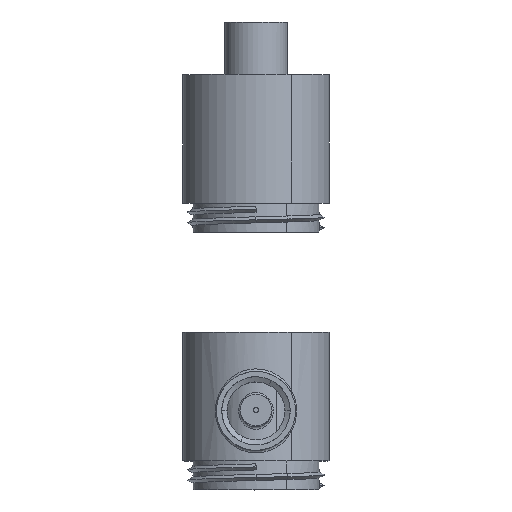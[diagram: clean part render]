
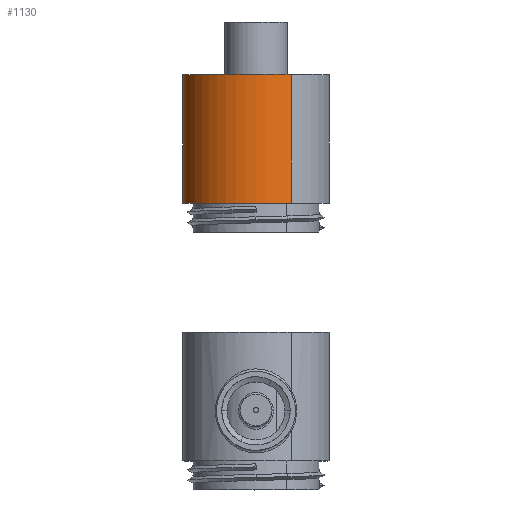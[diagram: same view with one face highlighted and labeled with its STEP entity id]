
A CAD part, top view. The second image highlights one B-rep face of the part: STEP entity #1130.
In plain terms, the highlighted cylindrical face has radius 14 mm (diameter 28 mm), a partial arc.
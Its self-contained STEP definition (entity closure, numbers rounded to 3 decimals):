
#568=CYLINDRICAL_SURFACE('',#11370,14.);
#1130=ADVANCED_FACE('',(#1865),#568,.T.);
#1865=FACE_OUTER_BOUND('',#2558,.T.);
#2558=EDGE_LOOP('',(#5853,#5854,#5855,#5856));
#5853=ORIENTED_EDGE('',*,*,#9050,.F.);
#5854=ORIENTED_EDGE('',*,*,#9055,.T.);
#5855=ORIENTED_EDGE('',*,*,#9056,.T.);
#5856=ORIENTED_EDGE('',*,*,#9053,.T.);
#7326=VERTEX_POINT('',#30887);
#7327=VERTEX_POINT('',#30888);
#7330=VERTEX_POINT('',#30927);
#7331=VERTEX_POINT('',#30938);
#9050=EDGE_CURVE('',#7327,#7326,#10847,.T.);
#9053=EDGE_CURVE('',#7330,#7326,#10850,.T.);
#9055=EDGE_CURVE('',#7327,#7331,#10852,.T.);
#9056=EDGE_CURVE('',#7331,#7330,#10853,.T.);
#10847=B_SPLINE_CURVE_WITH_KNOTS('',3,(#30889,#30890,#30891,#30892,#30893,
#30894,#30895,#30896,#30897,#30898),.UNSPECIFIED.,.F.,.F.,(4,2,2,2,4),(0.,
0.25,0.5,0.75,1.),.UNSPECIFIED.);
#10850=B_SPLINE_CURVE_WITH_KNOTS('',3,(#30923,#30924,#30925,#30926),
 .UNSPECIFIED.,.F.,.F.,(4,4),(0.,1.),.UNSPECIFIED.);
#10852=B_SPLINE_CURVE_WITH_KNOTS('',3,(#30939,#30940,#30941,#30942),
 .UNSPECIFIED.,.F.,.F.,(4,4),(0.,1.),.UNSPECIFIED.);
#10853=B_SPLINE_CURVE_WITH_KNOTS('',3,(#30944,#30945,#30946,#30947,#30948,
#30949,#30950,#30951,#30952,#30953),.UNSPECIFIED.,.F.,.F.,(4,2,2,2,4),(0.,
0.25,0.5,0.75,1.),.UNSPECIFIED.);
#11370=AXIS2_PLACEMENT_3D('',#30954,#12065,#12066);
#12065=DIRECTION('',(0.,1.,0.));
#12066=DIRECTION('',(-0.479,0.,-0.878));
#30887=CARTESIAN_POINT('',(6.712,30.,12.286));
#30888=CARTESIAN_POINT('',(-6.712,30.,-12.286));
#30889=CARTESIAN_POINT('',(-6.712,30.,-12.286));
#30890=CARTESIAN_POINT('',(-9.928,30.,-10.529));
#30891=CARTESIAN_POINT('',(-12.401,30.,-7.458));
#30892=CARTESIAN_POINT('',(-14.465,30.,-0.425));
#30893=CARTESIAN_POINT('',(-14.043,30.,3.495));
#30894=CARTESIAN_POINT('',(-10.529,30.,9.928));
#30895=CARTESIAN_POINT('',(-7.458,30.,12.401));
#30896=CARTESIAN_POINT('',(-0.425,30.,14.465));
#30897=CARTESIAN_POINT('',(3.495,30.,14.043));
#30898=CARTESIAN_POINT('',(6.712,30.,12.286));
#30923=CARTESIAN_POINT('',(6.712,5.5,12.286));
#30924=CARTESIAN_POINT('',(6.712,13.667,12.286));
#30925=CARTESIAN_POINT('',(6.712,21.833,12.286));
#30926=CARTESIAN_POINT('',(6.712,30.,12.286));
#30927=CARTESIAN_POINT('',(6.712,5.5,12.286));
#30938=CARTESIAN_POINT('',(-6.712,5.5,-12.286));
#30939=CARTESIAN_POINT('',(-6.712,30.,-12.286));
#30940=CARTESIAN_POINT('',(-6.712,21.833,-12.286));
#30941=CARTESIAN_POINT('',(-6.712,13.667,-12.286));
#30942=CARTESIAN_POINT('',(-6.712,5.5,-12.286));
#30944=CARTESIAN_POINT('',(-6.712,5.5,-12.286));
#30945=CARTESIAN_POINT('',(-9.928,5.5,-10.529));
#30946=CARTESIAN_POINT('',(-12.402,5.5,-7.458));
#30947=CARTESIAN_POINT('',(-14.466,5.5,-0.425));
#30948=CARTESIAN_POINT('',(-14.043,5.5,3.495));
#30949=CARTESIAN_POINT('',(-10.529,5.5,9.928));
#30950=CARTESIAN_POINT('',(-7.458,5.5,12.402));
#30951=CARTESIAN_POINT('',(-0.425,5.5,14.466));
#30952=CARTESIAN_POINT('',(3.495,5.5,14.043));
#30953=CARTESIAN_POINT('',(6.712,5.5,12.286));
#30954=CARTESIAN_POINT('',(0.,15.,0.));
